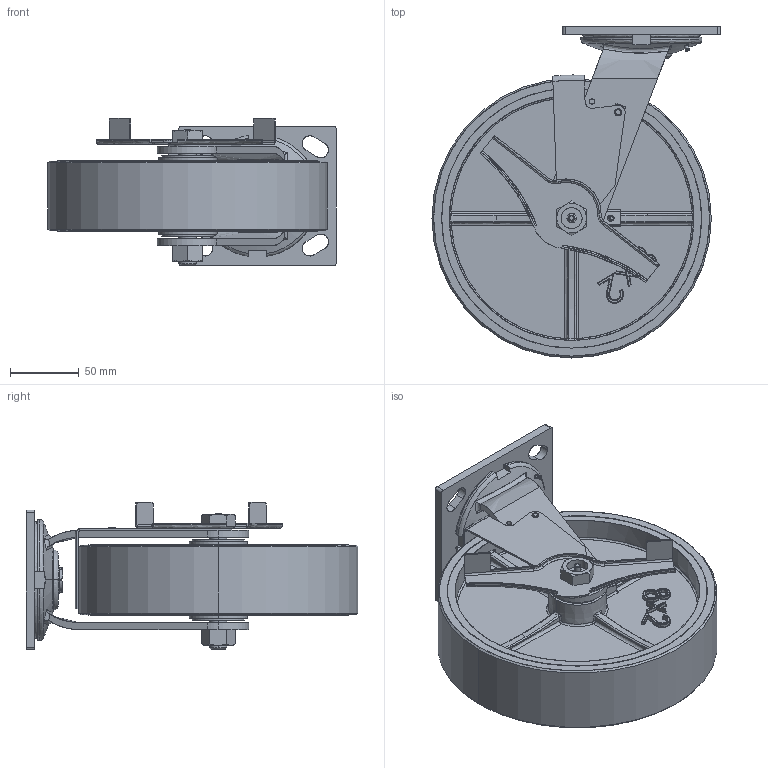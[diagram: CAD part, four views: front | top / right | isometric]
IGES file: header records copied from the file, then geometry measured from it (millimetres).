
Start section: SolidWorks IGES file using analytic representation for surfaces
Global section: file name: \\192.168.10.19\Nimesh\Inquiry\Tyler Manz\Output\2021-07-02\8'' Heavy Duty Swivel Caster with Brake\SCC-30CS820-PUR-TLB-GB 3D IGES.IGS; native system: SolidWorks 2015; preprocessor: SolidWorks 2015; author: priyank.bhatt; date: 210813.195014; units: inch
Bounding box: 209.55 x 241.3 x 107.31 mm (x, y, z)
Surface area: 203848.2 mm2 (no closed solid volume)
Topology: 0 solids, 0 shells, 841 faces, 9859 edges, 9802 vertices
Faces by surface type: bspline 498, revolution 343
